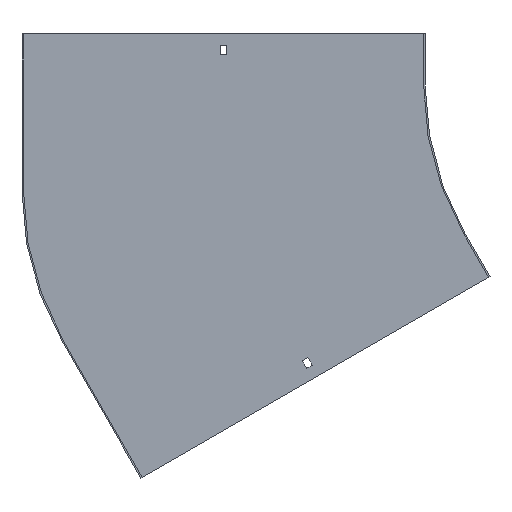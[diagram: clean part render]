
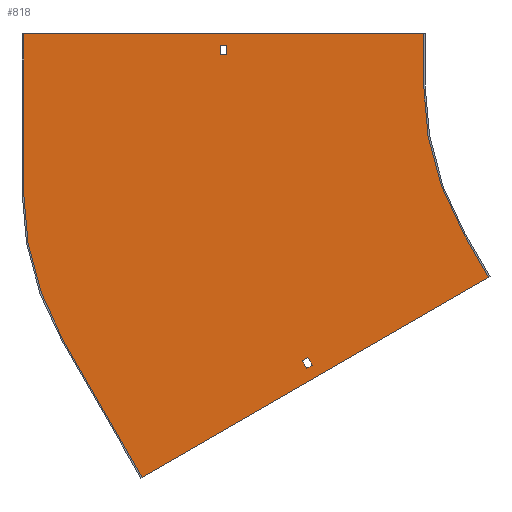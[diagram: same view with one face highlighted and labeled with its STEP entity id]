
A CAD part, front view. The second image highlights one B-rep face of the part: STEP entity #818.
In plain terms, the highlighted planar face has unit normal (0, -1, 0).
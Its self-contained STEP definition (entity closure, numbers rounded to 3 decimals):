
#7 = VERTEX_POINT ( 'NONE', #596 ) ;
#8 = CARTESIAN_POINT ( 'NONE',  ( -233.509, -1.5, -192.551 ) ) ;
#16 = CARTESIAN_POINT ( 'NONE',  ( -259.808, -1.5, -150. ) ) ;
#25 = DIRECTION ( 'NONE',  ( 0., 0., 1. ) ) ;
#30 = VERTEX_POINT ( 'NONE', #600 ) ;
#34 = EDGE_CURVE ( 'NONE', #590, #332, #480, .T. ) ;
#36 = CIRCLE ( 'NONE', #575, 300. ) ;
#41 = DIRECTION ( 'NONE',  ( 0., 0., -1. ) ) ;
#53 = EDGE_LOOP ( 'NONE', ( #158, #163, #823, #579, #231, #485, #382, #740 ) ) ;
#55 = EDGE_CURVE ( 'NONE', #538, #732, #352, .T. ) ;
#69 = DIRECTION ( 'NONE',  ( 0.866, 0., 0.5 ) ) ;
#94 = CARTESIAN_POINT ( 'NONE',  ( -581.218, -1.5, -393.301 ) ) ;
#96 = DIRECTION ( 'NONE',  ( 0., 1., 0. ) ) ;
#110 = LINE ( 'NONE', #313, #502 ) ;
#111 = DIRECTION ( 'NONE',  ( 0., 0., -1. ) ) ;
#112 = LINE ( 'NONE', #376, #134 ) ;
#118 = CARTESIAN_POINT ( 'NONE',  ( -421.327, -1.5, -276.74 ) ) ;
#120 = EDGE_LOOP ( 'NONE', ( #618, #132, #593, #476 ) ) ;
#132 = ORIENTED_EDGE ( 'NONE', *, *, #821, .T. ) ;
#134 = VECTOR ( 'NONE', #406, 1000. ) ;
#135 = VECTOR ( 'NONE', #136, 1000. ) ;
#136 = DIRECTION ( 'NONE',  ( -0.5, 0., 0.866 ) ) ;
#141 = CARTESIAN_POINT ( 'NONE',  ( -435.827, -1.5, -251.625 ) ) ;
#147 = EDGE_CURVE ( 'NONE', #732, #295, #500, .T. ) ;
#148 = VERTEX_POINT ( 'NONE', #169 ) ;
#154 = CARTESIAN_POINT ( 'NONE',  ( -503.25, -1.5, 29. ) ) ;
#157 = DIRECTION ( 'NONE',  ( 1., 0., 0. ) ) ;
#158 = ORIENTED_EDGE ( 'NONE', *, *, #229, .F. ) ;
#161 = VECTOR ( 'NONE', #392, 1000. ) ;
#163 = ORIENTED_EDGE ( 'NONE', *, *, #436, .F. ) ;
#169 = CARTESIAN_POINT ( 'NONE',  ( -300., -1.5, 50. ) ) ;
#178 = VERTEX_POINT ( 'NONE', #437 ) ;
#187 = LINE ( 'NONE', #859, #161 ) ;
#188 = VECTOR ( 'NONE', #808, 1000. ) ;
#197 = ORIENTED_EDGE ( 'NONE', *, *, #478, .F. ) ;
#205 = VECTOR ( 'NONE', #588, 1000. ) ;
#229 = EDGE_CURVE ( 'NONE', #178, #148, #241, .T. ) ;
#231 = ORIENTED_EDGE ( 'NONE', *, *, #55, .F. ) ;
#240 = CARTESIAN_POINT ( 'NONE',  ( 0., -1.5, 0. ) ) ;
#241 = LINE ( 'NONE', #646, #400 ) ;
#246 = CARTESIAN_POINT ( 'NONE',  ( -496.75, -1.5, 38. ) ) ;
#253 = CARTESIAN_POINT ( 'NONE',  ( 0., -1.5, 29. ) ) ;
#257 = VERTEX_POINT ( 'NONE', #702 ) ;
#261 = EDGE_CURVE ( 'NONE', #487, #538, #112, .T. ) ;
#281 = CARTESIAN_POINT ( 'NONE',  ( -234.808, -1.5, -193.301 ) ) ;
#283 = LINE ( 'NONE', #656, #345 ) ;
#290 = VECTOR ( 'NONE', #699, 1000. ) ;
#293 = LINE ( 'NONE', #620, #501 ) ;
#295 = VERTEX_POINT ( 'NONE', #675 ) ;
#296 = DIRECTION ( 'NONE',  ( 0., -1., 0. ) ) ;
#304 = CARTESIAN_POINT ( 'NONE',  ( -496.75, -1.5, 29. ) ) ;
#305 = FACE_OUTER_BOUND ( 'NONE', #53, .T. ) ;
#313 = CARTESIAN_POINT ( 'NONE',  ( -300., -1.5, 50. ) ) ;
#326 = VERTEX_POINT ( 'NONE', #804 ) ;
#332 = VERTEX_POINT ( 'NONE', #486 ) ;
#345 = VECTOR ( 'NONE', #69, 1000. ) ;
#352 = LINE ( 'NONE', #8, #750 ) ;
#354 = CARTESIAN_POINT ( 'NONE',  ( 0., -1.5, 38. ) ) ;
#358 = DIRECTION ( 'NONE',  ( 0., 0., -1. ) ) ;
#361 = CARTESIAN_POINT ( 'NONE',  ( 0., -1.5, 0. ) ) ;
#375 = LINE ( 'NONE', #628, #790 ) ;
#376 = CARTESIAN_POINT ( 'NONE',  ( -259.808, -1.5, -150. ) ) ;
#382 = ORIENTED_EDGE ( 'NONE', *, *, #393, .F. ) ;
#392 = DIRECTION ( 'NONE',  ( -0.866, 0., -0.5 ) ) ;
#393 = EDGE_CURVE ( 'NONE', #326, #487, #36, .T. ) ;
#395 = FACE_BOUND ( 'NONE', #418, .T. ) ;
#400 = VECTOR ( 'NONE', #466, 1000. ) ;
#406 = DIRECTION ( 'NONE',  ( 0.5, 0., -0.866 ) ) ;
#418 = EDGE_LOOP ( 'NONE', ( #197, #835, #661, #534 ) ) ;
#425 = CARTESIAN_POINT ( 'NONE',  ( -400., -1.5, -107.18 ) ) ;
#436 = EDGE_CURVE ( 'NONE', #7, #178, #293, .T. ) ;
#437 = CARTESIAN_POINT ( 'NONE',  ( -700., -1.5, 50. ) ) ;
#460 = EDGE_CURVE ( 'NONE', #332, #755, #747, .T. ) ;
#466 = DIRECTION ( 'NONE',  ( 1., 0., 0. ) ) ;
#467 = EDGE_CURVE ( 'NONE', #295, #7, #639, .T. ) ;
#476 = ORIENTED_EDGE ( 'NONE', *, *, #34, .T. ) ;
#478 = EDGE_CURVE ( 'NONE', #30, #257, #617, .T. ) ;
#480 = LINE ( 'NONE', #801, #188 ) ;
#485 = ORIENTED_EDGE ( 'NONE', *, *, #261, .F. ) ;
#486 = CARTESIAN_POINT ( 'NONE',  ( -503.25, -1.5, 38. ) ) ;
#487 = VERTEX_POINT ( 'NONE', #16 ) ;
#498 = EDGE_CURVE ( 'NONE', #651, #827, #725, .T. ) ;
#499 = CARTESIAN_POINT ( 'NONE',  ( -430.198, -1.5, -248.375 ) ) ;
#500 = LINE ( 'NONE', #94, #741 ) ;
#501 = VECTOR ( 'NONE', #25, 1000. ) ;
#502 = VECTOR ( 'NONE', #512, 1000. ) ;
#505 = DIRECTION ( 'NONE',  ( 0., 0., -1. ) ) ;
#512 = DIRECTION ( 'NONE',  ( 0., 0., -1. ) ) ;
#534 = ORIENTED_EDGE ( 'NONE', *, *, #772, .F. ) ;
#538 = VERTEX_POINT ( 'NONE', #281 ) ;
#540 = EDGE_CURVE ( 'NONE', #827, #30, #283, .T. ) ;
#544 = VECTOR ( 'NONE', #157, 1000. ) ;
#567 = FACE_BOUND ( 'NONE', #120, .T. ) ;
#575 = AXIS2_PLACEMENT_3D ( 'NONE', #361, #296, #505 ) ;
#576 = CARTESIAN_POINT ( 'NONE',  ( -581.218, -1.5, -393.301 ) ) ;
#579 = ORIENTED_EDGE ( 'NONE', *, *, #147, .F. ) ;
#581 = LINE ( 'NONE', #253, #290 ) ;
#588 = DIRECTION ( 'NONE',  ( 0.5, 0., -0.866 ) ) ;
#590 = VERTEX_POINT ( 'NONE', #154 ) ;
#592 = AXIS2_PLACEMENT_3D ( 'NONE', #240, #700, #111 ) ;
#593 = ORIENTED_EDGE ( 'NONE', *, *, #672, .T. ) ;
#596 = CARTESIAN_POINT ( 'NONE',  ( -700., -1.5, -107.18 ) ) ;
#600 = CARTESIAN_POINT ( 'NONE',  ( -411.198, -1.5, -281.284 ) ) ;
#605 = DIRECTION ( 'NONE',  ( -0.866, 0., -0.5 ) ) ;
#617 = LINE ( 'NONE', #499, #135 ) ;
#618 = ORIENTED_EDGE ( 'NONE', *, *, #460, .T. ) ;
#620 = CARTESIAN_POINT ( 'NONE',  ( -700., -1.5, -107.18 ) ) ;
#628 = CARTESIAN_POINT ( 'NONE',  ( -496.75, -1.5, 0. ) ) ;
#639 = CIRCLE ( 'NONE', #683, 300. ) ;
#646 = CARTESIAN_POINT ( 'NONE',  ( -701.5, -1.5, 50. ) ) ;
#651 = VERTEX_POINT ( 'NONE', #118 ) ;
#656 = CARTESIAN_POINT ( 'NONE',  ( 19., -1.5, -32.909 ) ) ;
#661 = ORIENTED_EDGE ( 'NONE', *, *, #498, .F. ) ;
#672 = EDGE_CURVE ( 'NONE', #717, #590, #581, .T. ) ;
#675 = CARTESIAN_POINT ( 'NONE',  ( -659.808, -1.5, -257.18 ) ) ;
#683 = AXIS2_PLACEMENT_3D ( 'NONE', #425, #96, #358 ) ;
#699 = DIRECTION ( 'NONE',  ( -1., 0., 0. ) ) ;
#700 = DIRECTION ( 'NONE',  ( 0., -1., 0. ) ) ;
#702 = CARTESIAN_POINT ( 'NONE',  ( -415.698, -1.5, -273.49 ) ) ;
#716 = EDGE_CURVE ( 'NONE', #148, #326, #110, .T. ) ;
#717 = VERTEX_POINT ( 'NONE', #304 ) ;
#725 = LINE ( 'NONE', #141, #205 ) ;
#732 = VERTEX_POINT ( 'NONE', #576 ) ;
#740 = ORIENTED_EDGE ( 'NONE', *, *, #716, .F. ) ;
#741 = VECTOR ( 'NONE', #752, 1000. ) ;
#747 = LINE ( 'NONE', #354, #544 ) ;
#750 = VECTOR ( 'NONE', #605, 1000. ) ;
#752 = DIRECTION ( 'NONE',  ( -0.5, 0., 0.866 ) ) ;
#755 = VERTEX_POINT ( 'NONE', #246 ) ;
#772 = EDGE_CURVE ( 'NONE', #257, #651, #187, .T. ) ;
#790 = VECTOR ( 'NONE', #41, 1000. ) ;
#796 = CARTESIAN_POINT ( 'NONE',  ( -416.827, -1.5, -284.534 ) ) ;
#801 = CARTESIAN_POINT ( 'NONE',  ( -503.25, -1.5, 0. ) ) ;
#804 = CARTESIAN_POINT ( 'NONE',  ( -300., -1.5, 0. ) ) ;
#808 = DIRECTION ( 'NONE',  ( 0., 0., 1. ) ) ;
#818 = ADVANCED_FACE ( 'NONE', ( #395, #305, #567 ), #830, .T. ) ;
#821 = EDGE_CURVE ( 'NONE', #755, #717, #375, .T. ) ;
#823 = ORIENTED_EDGE ( 'NONE', *, *, #467, .F. ) ;
#827 = VERTEX_POINT ( 'NONE', #796 ) ;
#830 = PLANE ( 'NONE',  #592 ) ;
#835 = ORIENTED_EDGE ( 'NONE', *, *, #540, .F. ) ;
#859 = CARTESIAN_POINT ( 'NONE',  ( 14.5, -1.5, -25.115 ) ) ;
